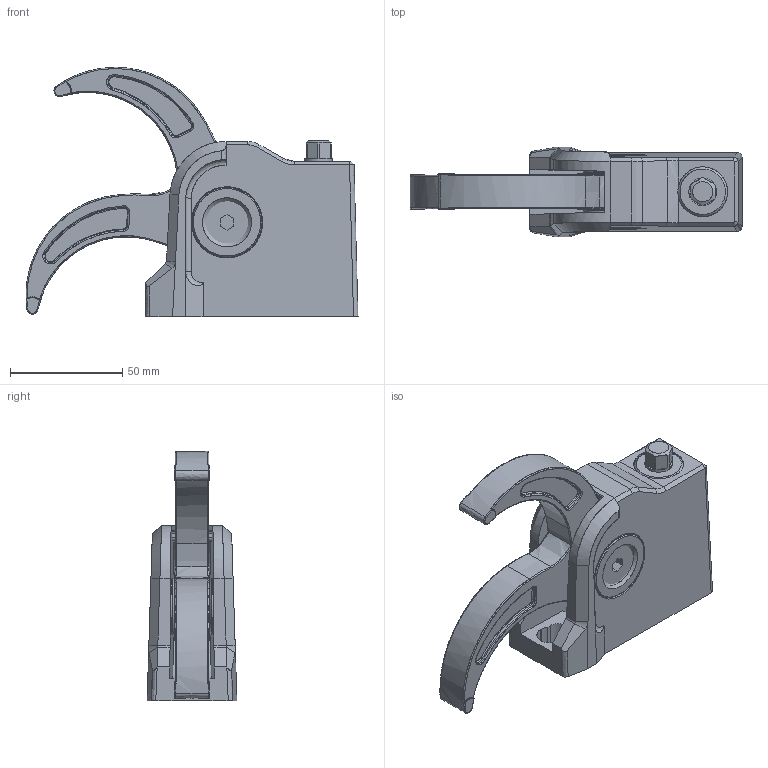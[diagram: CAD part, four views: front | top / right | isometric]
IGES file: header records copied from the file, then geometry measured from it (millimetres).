
Start section: ZWSOFT
Global section: file name: BSP-CB10-6.igs; native system: ZW3D; preprocessor: 1.0; author: ZW3D; organization: ZWSOFT; date: 120704.171531; units: millimetre
Bounding box: 147.83 x 40 x 111.02 mm (x, y, z)
Surface area: 74113.1 mm2 (no closed solid volume)
Topology: 0 solids, 0 shells, 420 faces, 2184 edges, 2071 vertices
Faces by surface type: bspline 420
